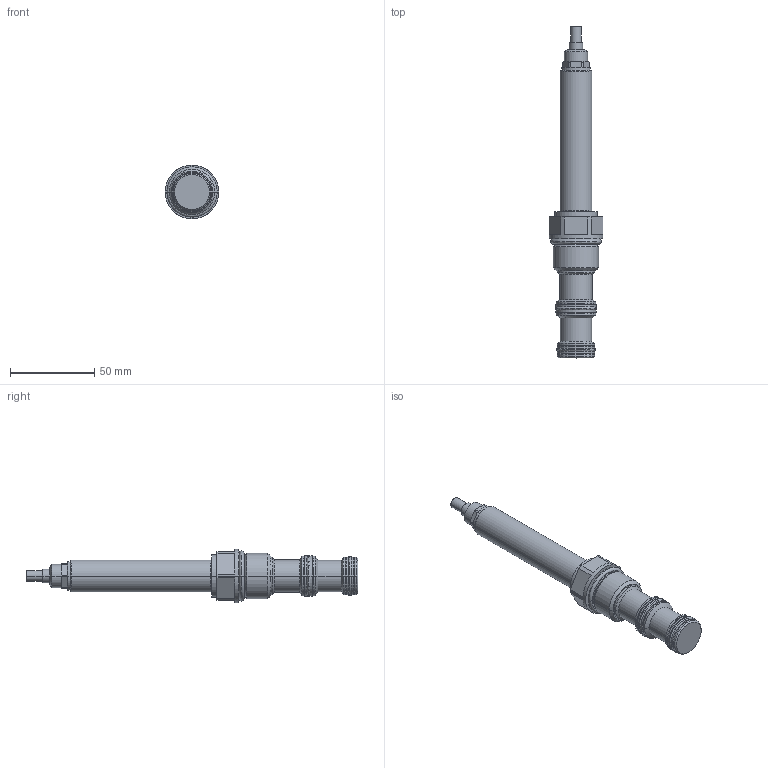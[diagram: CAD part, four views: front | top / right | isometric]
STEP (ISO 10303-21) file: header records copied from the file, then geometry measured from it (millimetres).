
FILE_DESCRIPTION((''),'2;1');
FILE_NAME('5042200_SW0002','2009-03-02T',('JCS'),(''),'PRO/ENGINEER BY PARAMETRIC TECHNOLOGY CORPORATION, 2008010','PRO/ENGINEER BY PARAMETRIC TECHNOLOGY CORPORATION, 2008010','');
FILE_SCHEMA(('CONFIG_CONTROL_DESIGN'));
Length unit declared in the file: inch
Products named in the file (1): 5042200_SW0002
Bounding box: 31.75 x 197.15 x 31.75 mm (x, y, z)
Volume: 46446.4 mm3; surface area: 22374.5 mm2
Topology: 5 solids, 6 shells, 201 faces, 420 edges, 242 vertices
Faces by surface type: cylinder 64, cone 44, plane 41, torus 28, revolution 24
Entity records: 5884 total; most frequent: CARTESIAN_POINT 1461, DIRECTION 1002, ORIENTED_EDGE 840, AXIS2_PLACEMENT_3D 423, EDGE_CURVE 420, CIRCLE 246, VERTEX_POINT 242, EDGE_LOOP 218
